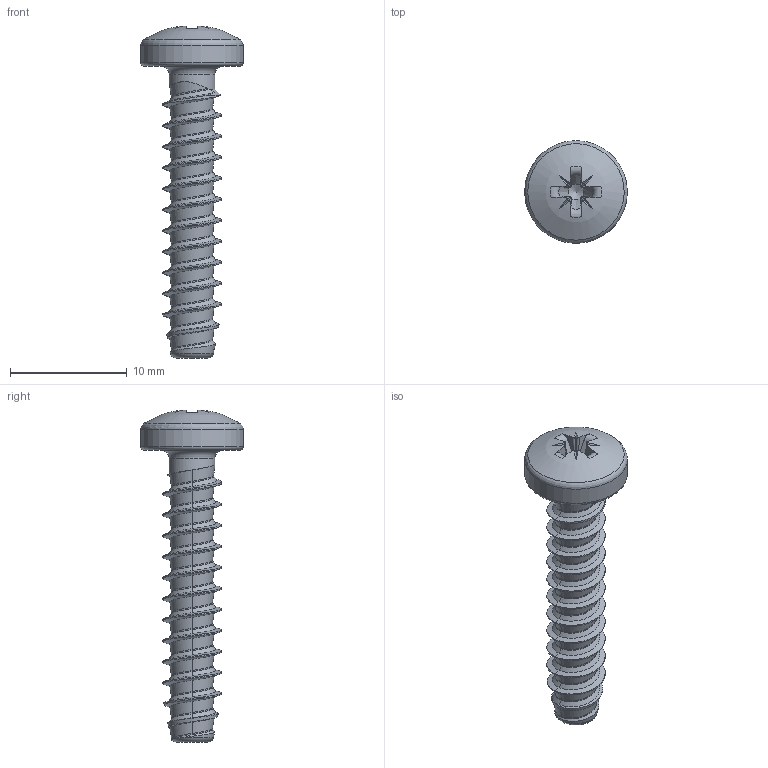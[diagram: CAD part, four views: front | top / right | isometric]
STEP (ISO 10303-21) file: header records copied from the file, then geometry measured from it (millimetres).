
FILE_DESCRIPTION(/* description */ (''),/* implementation_level */ '2;1');
FILE_NAME(/* name */ 'KN6032-STSplus-50x25-Z2.step',/* time_stamp */ '2017-10-10T16:14:41+02:00',/* author */ (''),/* organization */ (''),/* preprocessor_version */ 'ST-DEVELOPER v16',/* originating_system */ 'SIEMENS PLM Software NX 10.0',/* authorisation */ '');
FILE_SCHEMA (('AUTOMOTIVE_DESIGN { 1 0 10303 214 3 1 1 1 }'));
Length unit declared in the file: millimetre
Products named in the file (1): KN6032-STSplus-50x25-Z2
Bounding box: 8.8 x 8.8 x 28.44 mm (x, y, z)
Volume: 460.4 mm3; surface area: 638.2 mm2
Topology: 1 solids, 1 shells, 138 faces, 330 edges, 194 vertices
Faces by surface type: bspline 69, plane 42, cylinder 11, torus 8, cone 7, sphere 1
Full cylindrical faces by diameter (mm): 3.92 x1, 8.8 x1
Entity records: 7651 total; most frequent: CARTESIAN_POINT 4975, ORIENTED_EDGE 632, DIRECTION 375, EDGE_CURVE 316, VERTEX_POINT 189, EDGE_LOOP 146, ADVANCED_FACE 138, B_SPLINE_CURVE_WITH_KNOTS 136
